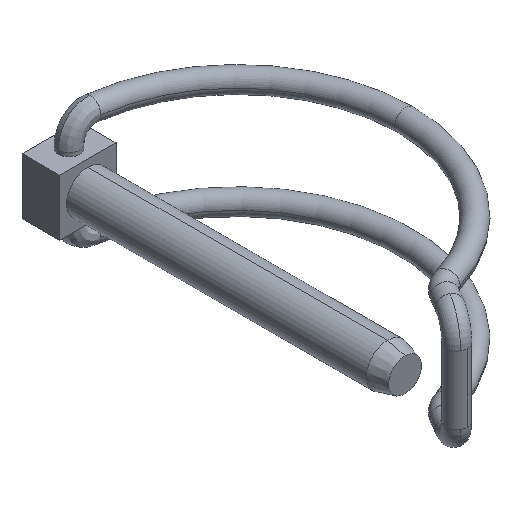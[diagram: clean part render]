
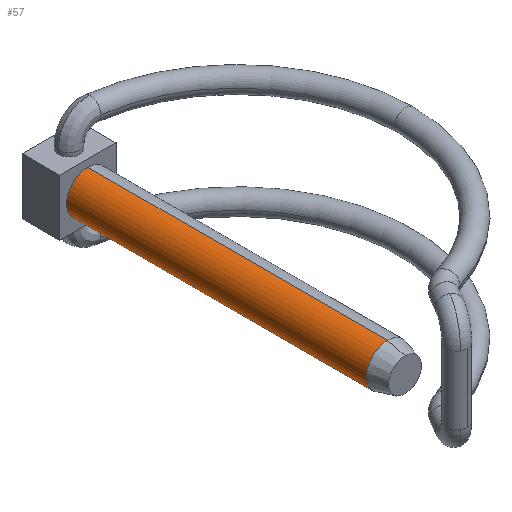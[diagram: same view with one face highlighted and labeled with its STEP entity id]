
A CAD part, isometric view. The second image highlights one B-rep face of the part: STEP entity #57.
In plain terms, the highlighted cylindrical face has radius 4 mm (diameter 8 mm), a partial arc.
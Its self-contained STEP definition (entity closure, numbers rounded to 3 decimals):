
#40 = VERTEX_POINT ( 'NONE', #510 ) ;
#57 = ADVANCED_FACE ( 'NONE', ( #1517 ), #771, .T. ) ;
#90 = CARTESIAN_POINT ( 'NONE',  ( 0., -56.683, 4. ) ) ;
#339 = CARTESIAN_POINT ( 'NONE',  ( 0., -56.683, 0. ) ) ;
#376 = DIRECTION ( 'NONE',  ( 0., 0., 1. ) ) ;
#377 = DIRECTION ( 'NONE',  ( 0., 0., 1. ) ) ;
#400 = VECTOR ( 'NONE', #434, 1000. ) ;
#415 = DIRECTION ( 'NONE',  ( 0., 1., 0. ) ) ;
#424 = ORIENTED_EDGE ( 'NONE', *, *, #721, .F. ) ;
#434 = DIRECTION ( 'NONE',  ( 0., 1., 0. ) ) ;
#490 = CARTESIAN_POINT ( 'NONE',  ( 0., 0., 0. ) ) ;
#510 = CARTESIAN_POINT ( 'NONE',  ( 0., -56.683, -4. ) ) ;
#571 = ORIENTED_EDGE ( 'NONE', *, *, #1657, .T. ) ;
#684 = ORIENTED_EDGE ( 'NONE', *, *, #1175, .T. ) ;
#721 = EDGE_CURVE ( 'NONE', #1135, #1022, #1029, .T. ) ;
#733 = CARTESIAN_POINT ( 'NONE',  ( 0., 0., -4. ) ) ;
#755 = DIRECTION ( 'NONE',  ( 0., 0., 1. ) ) ;
#762 = AXIS2_PLACEMENT_3D ( 'NONE', #339, #1359, #755 ) ;
#771 = CYLINDRICAL_SURFACE ( 'NONE', #1796, 4. ) ;
#848 = AXIS2_PLACEMENT_3D ( 'NONE', #490, #1064, #376 ) ;
#872 = CARTESIAN_POINT ( 'NONE',  ( 0., 0., 4. ) ) ;
#896 = LINE ( 'NONE', #1326, #400 ) ;
#917 = CARTESIAN_POINT ( 'NONE',  ( 0., -60., 0. ) ) ;
#918 = EDGE_CURVE ( 'NONE', #40, #1135, #1532, .T. ) ;
#1022 = VERTEX_POINT ( 'NONE', #872 ) ;
#1029 = CIRCLE ( 'NONE', #848, 4. ) ;
#1064 = DIRECTION ( 'NONE',  ( 0., 1., 0. ) ) ;
#1082 = DIRECTION ( 'NONE',  ( 0., 1., 0. ) ) ;
#1135 = VERTEX_POINT ( 'NONE', #733 ) ;
#1175 = EDGE_CURVE ( 'NONE', #1315, #1022, #896, .T. ) ;
#1205 = ORIENTED_EDGE ( 'NONE', *, *, #918, .F. ) ;
#1315 = VERTEX_POINT ( 'NONE', #90 ) ;
#1326 = CARTESIAN_POINT ( 'NONE',  ( 0., -60., 4. ) ) ;
#1359 = DIRECTION ( 'NONE',  ( 0., 1., 0. ) ) ;
#1365 = CIRCLE ( 'NONE', #762, 4. ) ;
#1517 = FACE_OUTER_BOUND ( 'NONE', #1817, .T. ) ;
#1532 = LINE ( 'NONE', #1836, #1682 ) ;
#1657 = EDGE_CURVE ( 'NONE', #40, #1315, #1365, .T. ) ;
#1682 = VECTOR ( 'NONE', #415, 1000. ) ;
#1796 = AXIS2_PLACEMENT_3D ( 'NONE', #917, #1082, #377 ) ;
#1817 = EDGE_LOOP ( 'NONE', ( #1205, #571, #684, #424 ) ) ;
#1836 = CARTESIAN_POINT ( 'NONE',  ( 0., -60., -4. ) ) ;
